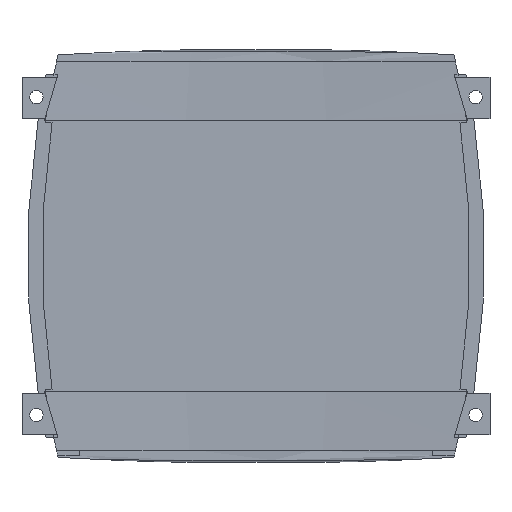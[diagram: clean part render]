
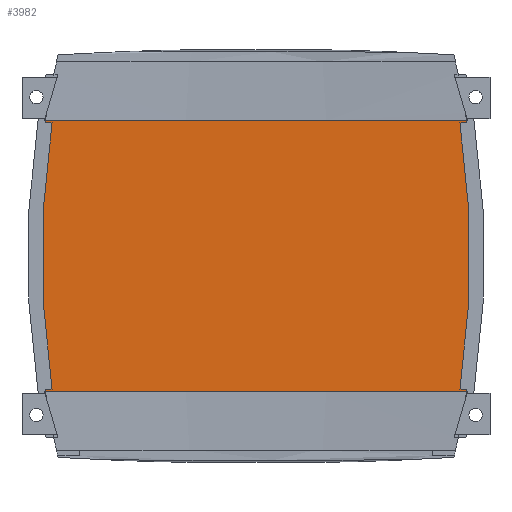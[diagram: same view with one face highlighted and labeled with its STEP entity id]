
A CAD part, front view. The second image highlights one B-rep face of the part: STEP entity #3982.
In plain terms, the highlighted planar face has unit normal (0, -1, 0).
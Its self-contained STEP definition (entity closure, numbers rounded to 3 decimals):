
#9 = FACE_OUTER_BOUND ( 'NONE', #2787, .T. ) ;
#153 = CARTESIAN_POINT ( 'NONE',  ( 210.6, 1.9, 0. ) ) ;
#172 = DIRECTION ( 'NONE',  ( 1., 0., 0. ) ) ;
#233 = CARTESIAN_POINT ( 'NONE',  ( 66.156, 1.9, 42.5 ) ) ;
#243 = VERTEX_POINT ( 'NONE', #574 ) ;
#350 = CARTESIAN_POINT ( 'NONE',  ( 66.255, 1.9, -41.85 ) ) ;
#407 = CIRCLE ( 'NONE', #483, 277.833 ) ;
#453 = AXIS2_PLACEMENT_3D ( 'NONE', #4391, #1882, #4743 ) ;
#464 = AXIS2_PLACEMENT_3D ( 'NONE', #3095, #642, #3529 ) ;
#483 = AXIS2_PLACEMENT_3D ( 'NONE', #1437, #4353, #1846 ) ;
#514 = AXIS2_PLACEMENT_3D ( 'NONE', #1806, #4674, #2200 ) ;
#515 = AXIS2_PLACEMENT_3D ( 'NONE', #153, #3057, #602 ) ;
#519 = LINE ( 'NONE', #233, #4084 ) ;
#521 = AXIS2_PLACEMENT_3D ( 'NONE', #917, #3816, #1309 ) ;
#524 = DIRECTION ( 'NONE',  ( 0., 0., -1. ) ) ;
#563 = CARTESIAN_POINT ( 'NONE',  ( -64.063, 1.9, 41.85 ) ) ;
#574 = CARTESIAN_POINT ( 'NONE',  ( -66.255, 1.9, -41.85 ) ) ;
#581 = VECTOR ( 'NONE', #946, 1000. ) ;
#602 = DIRECTION ( 'NONE',  ( 0., 0., -1. ) ) ;
#642 = DIRECTION ( 'NONE',  ( 0., 1., 0. ) ) ;
#721 = AXIS2_PLACEMENT_3D ( 'NONE', #3389, #2973, #524 ) ;
#917 = CARTESIAN_POINT ( 'NONE',  ( -210.6, 1.9, 0. ) ) ;
#946 = DIRECTION ( 'NONE',  ( -1., 0., 0. ) ) ;
#1118 = VECTOR ( 'NONE', #4368, 1000. ) ;
#1187 = VERTEX_POINT ( 'NONE', #3154 ) ;
#1239 = CIRCLE ( 'NONE', #453, 280. ) ;
#1248 = CARTESIAN_POINT ( 'NONE',  ( 66.156, 1.9, -42.5 ) ) ;
#1309 = DIRECTION ( 'NONE',  ( 0., 0., -1. ) ) ;
#1367 = VECTOR ( 'NONE', #172, 1000. ) ;
#1384 = ORIENTED_EDGE ( 'NONE', *, *, #4365, .F. ) ;
#1437 = CARTESIAN_POINT ( 'NONE',  ( 210.6, 1.9, 0. ) ) ;
#1453 = ORIENTED_EDGE ( 'NONE', *, *, #4442, .F. ) ;
#1506 = VECTOR ( 'NONE', #5048, 1000. ) ;
#1521 = ORIENTED_EDGE ( 'NONE', *, *, #3446, .F. ) ;
#1524 = VERTEX_POINT ( 'NONE', #563 ) ;
#1642 = VERTEX_POINT ( 'NONE', #1908 ) ;
#1646 = ORIENTED_EDGE ( 'NONE', *, *, #4399, .F. ) ;
#1756 = VECTOR ( 'NONE', #3470, 1000. ) ;
#1806 = CARTESIAN_POINT ( 'NONE',  ( -210.6, 1.9, 0. ) ) ;
#1846 = DIRECTION ( 'NONE',  ( 0., 0., -1. ) ) ;
#1882 = DIRECTION ( 'NONE',  ( 0., 1., 0. ) ) ;
#1896 = ORIENTED_EDGE ( 'NONE', *, *, #4434, .F. ) ;
#1908 = CARTESIAN_POINT ( 'NONE',  ( 66.156, 1.9, 42.5 ) ) ;
#1997 = VERTEX_POINT ( 'NONE', #350 ) ;
#2129 = PLANE ( 'NONE',  #721 ) ;
#2136 = CARTESIAN_POINT ( 'NONE',  ( -66.156, 1.9, -42.5 ) ) ;
#2184 = VERTEX_POINT ( 'NONE', #1248 ) ;
#2200 = DIRECTION ( 'NONE',  ( 0., 0., -1. ) ) ;
#2317 = ORIENTED_EDGE ( 'NONE', *, *, #4356, .F. ) ;
#2398 = VERTEX_POINT ( 'NONE', #3377 ) ;
#2433 = CIRCLE ( 'NONE', #464, 280. ) ;
#2566 = LINE ( 'NONE', #2639, #1506 ) ;
#2639 = CARTESIAN_POINT ( 'NONE',  ( 66.255, 1.9, 41.85 ) ) ;
#2693 = DIRECTION ( 'NONE',  ( 1., 0., 0. ) ) ;
#2704 = CIRCLE ( 'NONE', #514, 280. ) ;
#2744 = CARTESIAN_POINT ( 'NONE',  ( 64.063, 1.9, -41.85 ) ) ;
#2787 = EDGE_LOOP ( 'NONE', ( #2317, #1384, #4559, #1521, #3594, #1646, #4768, #4000, #4876, #5094, #1896, #1453 ) ) ;
#2821 = VERTEX_POINT ( 'NONE', #2744 ) ;
#2887 = LINE ( 'NONE', #2136, #581 ) ;
#2973 = DIRECTION ( 'NONE',  ( 0., -1., 0. ) ) ;
#3035 = CARTESIAN_POINT ( 'NONE',  ( 66.255, 1.9, 41.85 ) ) ;
#3037 = VERTEX_POINT ( 'NONE', #3213 ) ;
#3057 = DIRECTION ( 'NONE',  ( 0., 1., 0. ) ) ;
#3095 = CARTESIAN_POINT ( 'NONE',  ( 210.6, 1.9, 0. ) ) ;
#3154 = CARTESIAN_POINT ( 'NONE',  ( 66.255, 1.9, 41.85 ) ) ;
#3213 = CARTESIAN_POINT ( 'NONE',  ( 64.063, 1.9, 41.85 ) ) ;
#3234 = VERTEX_POINT ( 'NONE', #3394 ) ;
#3314 = LINE ( 'NONE', #5087, #1118 ) ;
#3327 = EDGE_CURVE ( 'NONE', #2184, #3234, #2887, .T. ) ;
#3334 = CARTESIAN_POINT ( 'NONE',  ( -66.255, 1.9, 41.85 ) ) ;
#3377 = CARTESIAN_POINT ( 'NONE',  ( -66.156, 1.9, 42.5 ) ) ;
#3389 = CARTESIAN_POINT ( 'NONE',  ( 0., 1.9, 0. ) ) ;
#3394 = CARTESIAN_POINT ( 'NONE',  ( -66.156, 1.9, -42.5 ) ) ;
#3446 = EDGE_CURVE ( 'NONE', #2398, #1642, #519, .T. ) ;
#3470 = DIRECTION ( 'NONE',  ( -1., 0., 0. ) ) ;
#3529 = DIRECTION ( 'NONE',  ( 0., 0., -1. ) ) ;
#3594 = ORIENTED_EDGE ( 'NONE', *, *, #4374, .F. ) ;
#3723 = VERTEX_POINT ( 'NONE', #5083 ) ;
#3816 = DIRECTION ( 'NONE',  ( 0., 1., 0. ) ) ;
#3851 = LINE ( 'NONE', #3035, #1756 ) ;
#3936 = CARTESIAN_POINT ( 'NONE',  ( -66.255, 1.9, -41.85 ) ) ;
#3982 = ADVANCED_FACE ( 'NONE', ( #9 ), #2129, .T. ) ;
#4000 = ORIENTED_EDGE ( 'NONE', *, *, #4405, .F. ) ;
#4084 = VECTOR ( 'NONE', #2693, 1000. ) ;
#4353 = DIRECTION ( 'NONE',  ( 0., -1., 0. ) ) ;
#4356 = EDGE_CURVE ( 'NONE', #3037, #2821, #4864, .T. ) ;
#4365 = EDGE_CURVE ( 'NONE', #1187, #3037, #3851, .T. ) ;
#4368 = DIRECTION ( 'NONE',  ( 1., 0., 0. ) ) ;
#4372 = EDGE_CURVE ( 'NONE', #1642, #1187, #2704, .T. ) ;
#4374 = EDGE_CURVE ( 'NONE', #4911, #2398, #4756, .T. ) ;
#4391 = CARTESIAN_POINT ( 'NONE',  ( -210.6, 1.9, 0. ) ) ;
#4399 = EDGE_CURVE ( 'NONE', #1524, #4911, #2566, .T. ) ;
#4401 = EDGE_CURVE ( 'NONE', #1524, #3723, #407, .T. ) ;
#4405 = EDGE_CURVE ( 'NONE', #243, #3723, #4645, .T. ) ;
#4407 = EDGE_CURVE ( 'NONE', #3234, #243, #2433, .T. ) ;
#4434 = EDGE_CURVE ( 'NONE', #1997, #2184, #1239, .T. ) ;
#4442 = EDGE_CURVE ( 'NONE', #2821, #1997, #3314, .T. ) ;
#4559 = ORIENTED_EDGE ( 'NONE', *, *, #4372, .F. ) ;
#4645 = LINE ( 'NONE', #3936, #1367 ) ;
#4674 = DIRECTION ( 'NONE',  ( 0., 1., 0. ) ) ;
#4743 = DIRECTION ( 'NONE',  ( 0., 0., -1. ) ) ;
#4756 = CIRCLE ( 'NONE', #515, 280. ) ;
#4768 = ORIENTED_EDGE ( 'NONE', *, *, #4401, .T. ) ;
#4864 = CIRCLE ( 'NONE', #521, 277.833 ) ;
#4876 = ORIENTED_EDGE ( 'NONE', *, *, #4407, .F. ) ;
#4911 = VERTEX_POINT ( 'NONE', #3334 ) ;
#5048 = DIRECTION ( 'NONE',  ( -1., 0., 0. ) ) ;
#5083 = CARTESIAN_POINT ( 'NONE',  ( -64.063, 1.9, -41.85 ) ) ;
#5087 = CARTESIAN_POINT ( 'NONE',  ( -66.255, 1.9, -41.85 ) ) ;
#5094 = ORIENTED_EDGE ( 'NONE', *, *, #3327, .F. ) ;
